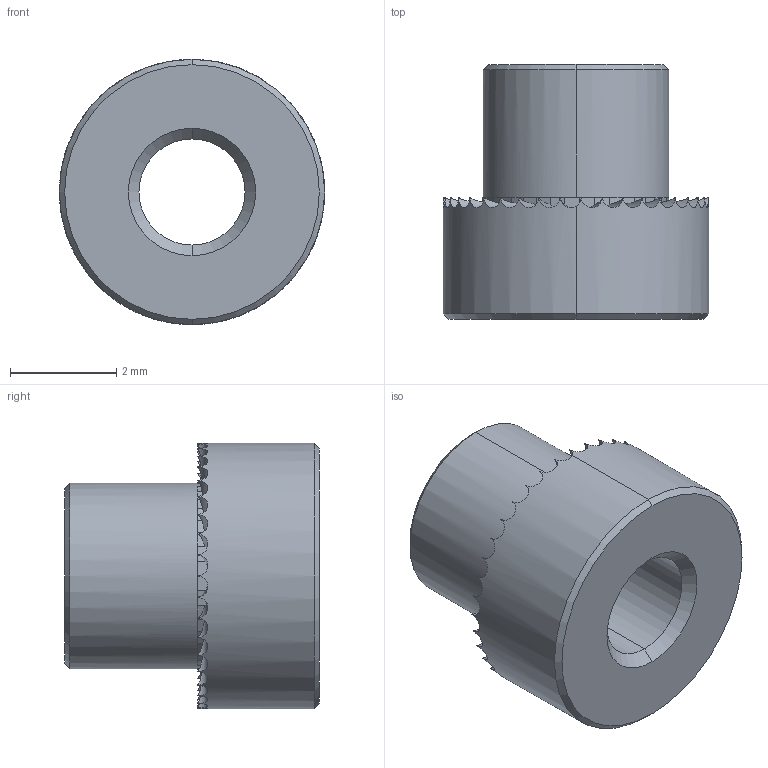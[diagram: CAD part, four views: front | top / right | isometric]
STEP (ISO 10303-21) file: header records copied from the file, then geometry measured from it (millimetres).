
FILE_DESCRIPTION (( 'STEP AP203' ), '1' );
FILE_NAME ('P0829.020-14G-ZP.step', '2019-03-21T22:09:42', ( '' ), ( '' ), 'SwSTEP 2.0', 'SolidWorks 2017', '' );
FILE_SCHEMA (( 'CONFIG_CONTROL_DESIGN' ));
Length unit declared in the file: millimetre
Products named in the file (1): P0829.020-14G-ZP
Bounding box: 5 x 4.8 x 5 mm (x, y, z)
Volume: 52 mm3; surface area: 125.8 mm2
Topology: 1 solids, 1 shells, 172 faces, 424 edges, 254 vertices
Faces by surface type: plane 119, cylinder 45, cone 8
Entity records: 5343 total; most frequent: CARTESIAN_POINT 1317, ORIENTED_EDGE 848, DIRECTION 825, EDGE_CURVE 424, AXIS2_PLACEMENT_3D 308, VERTEX_POINT 254, VECTOR 209, LINE 209
